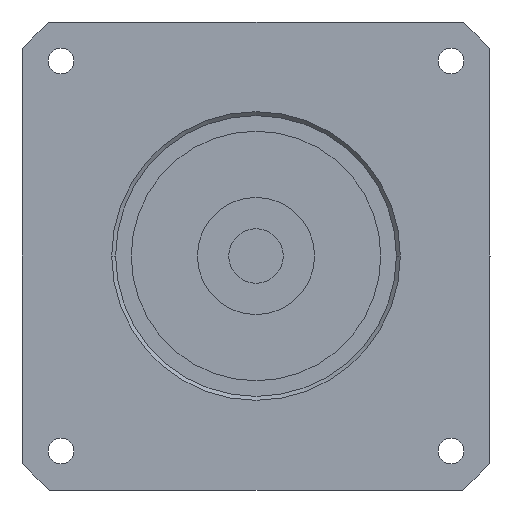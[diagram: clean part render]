
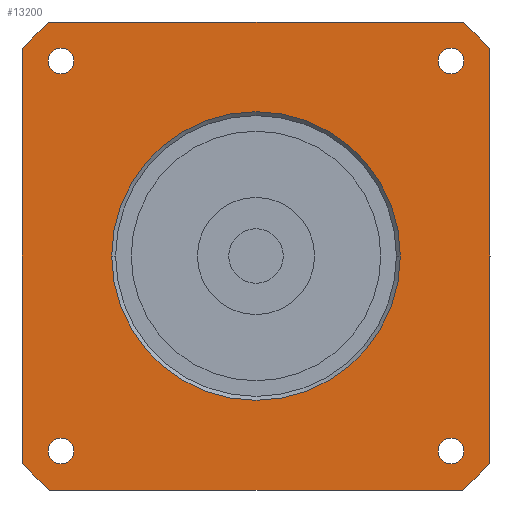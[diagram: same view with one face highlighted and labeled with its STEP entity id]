
A CAD part, left-side view. The second image highlights one B-rep face of the part: STEP entity #13200.
In plain terms, the highlighted planar face has unit normal (-1, 0, 0) as drawn and (0, 0, -1) by its records, which use the part's own axes.
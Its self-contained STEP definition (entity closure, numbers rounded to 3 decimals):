
#8680=CARTESIAN_POINT('',(25.,26.65,-39.));
#8690=VERTEX_POINT('',#8680);
#8870=CARTESIAN_POINT('',(25.,23.35,-39.));
#8880=VERTEX_POINT('',#8870);
#8910=CARTESIAN_POINT('',(25.,25.,-39.));
#8920=DIRECTION('',(0.,0.,-1.));
#8930=DIRECTION('',(0.,-1.,0.));
#8940=AXIS2_PLACEMENT_3D('',#8910,#8920,#8930);
#8950=CIRCLE('',#8940,1.65);
#8960=EDGE_CURVE('',#8690,#8880,#8950,.T.);
#9100=CARTESIAN_POINT('',(-25.,-23.35,-39.));
#9110=VERTEX_POINT('',#9100);
#9290=CARTESIAN_POINT('',(-25.,-26.65,-39.));
#9300=VERTEX_POINT('',#9290);
#9330=CARTESIAN_POINT('',(-25.,-25.,-39.));
#9340=DIRECTION('',(0.,0.,-1.));
#9350=DIRECTION('',(0.,-1.,0.));
#9360=AXIS2_PLACEMENT_3D('',#9330,#9340,#9350);
#9370=CIRCLE('',#9360,1.65);
#9380=EDGE_CURVE('',#9110,#9300,#9370,.T.);
#11720=CARTESIAN_POINT('',(-18.5,0.,-39.));
#11730=VERTEX_POINT('',#11720);
#11760=CARTESIAN_POINT('',(0.,0.,
-39.));
#11770=DIRECTION('',(0.,0.,-1.));
#11780=DIRECTION('',(0.,-1.,0.));
#11790=AXIS2_PLACEMENT_3D('',#11760,#11770,#11780);
#11800=CIRCLE('',#11790,18.5);
#11810=CARTESIAN_POINT('',(0.,-18.5,-39.));
#11820=VERTEX_POINT('',#11810);
#11830=EDGE_CURVE('',#11820,#11730,#11800,.T.);
#11850=CARTESIAN_POINT('',(18.5,0.,-39.));
#11860=VERTEX_POINT('',#11850);
#11870=EDGE_CURVE('',#11860,#11820,#11800,.T.);
#11990=CARTESIAN_POINT('',(0.,-40.,-39.));
#12000=DIRECTION('',(0.,0.,-1.));
#12010=DIRECTION('',(0.,-1.,0.));
#12020=AXIS2_PLACEMENT_3D('',#11990,#12000,#12010);
#12030=PLANE('',#12020);
#12040=CARTESIAN_POINT('',(25.,-25.,-39.));
#12050=DIRECTION('',(0.,0.,-1.));
#12060=DIRECTION('',(0.,-1.,0.));
#12070=AXIS2_PLACEMENT_3D('',#12040,#12050,#12060);
#12080=CIRCLE('',#12070,1.65);
#12090=CARTESIAN_POINT('',(25.,-26.65,-39.));
#12100=VERTEX_POINT('',#12090);
#12110=CARTESIAN_POINT('',(25.,-23.35,-39.));
#12120=VERTEX_POINT('',#12110);
#12130=EDGE_CURVE('',#12100,#12120,#12080,.T.);
#12140=ORIENTED_EDGE('',*,*,#12130,.F.);
#12150=EDGE_CURVE('',#12120,#12100,#12080,.T.);
#12160=ORIENTED_EDGE('',*,*,#12150,.F.);
#12170=EDGE_LOOP('',(#12160,#12140));
#12180=FACE_BOUND('',#12170,.T.);
#12190=EDGE_CURVE('',#8880,#8690,#8950,.T.);
#12200=ORIENTED_EDGE('',*,*,#12190,.F.);
#12210=ORIENTED_EDGE('',*,*,#8960,.F.);
#12220=EDGE_LOOP('',(#12210,#12200));
#12230=FACE_BOUND('',#12220,.T.);
#12240=CARTESIAN_POINT('',(-25.,25.,-39.));
#12250=DIRECTION('',(0.,0.,-1.));
#12260=DIRECTION('',(0.,-1.,0.));
#12270=AXIS2_PLACEMENT_3D('',#12240,#12250,#12260);
#12280=CIRCLE('',#12270,1.65);
#12290=CARTESIAN_POINT('',(-25.,23.35,-39.));
#12300=VERTEX_POINT('',#12290);
#12310=CARTESIAN_POINT('',(-25.,26.65,-39.));
#12320=VERTEX_POINT('',#12310);
#12330=EDGE_CURVE('',#12300,#12320,#12280,.T.);
#12340=ORIENTED_EDGE('',*,*,#12330,.F.);
#12350=EDGE_CURVE('',#12320,#12300,#12280,.T.);
#12360=ORIENTED_EDGE('',*,*,#12350,.F.);
#12370=EDGE_LOOP('',(#12360,#12340));
#12380=FACE_BOUND('',#12370,.T.);
#12390=EDGE_CURVE('',#9300,#9110,#9370,.T.);
#12400=ORIENTED_EDGE('',*,*,#12390,.F.);
#12410=ORIENTED_EDGE('',*,*,#9380,.F.);
#12420=EDGE_LOOP('',(#12410,#12400));
#12430=FACE_BOUND('',#12420,.T.);
#12440=ORIENTED_EDGE('',*,*,#11830,.F.);
#12450=EDGE_CURVE('',#11730,#11860,#11800,.T.);
#12460=ORIENTED_EDGE('',*,*,#12450,.F.);
#12470=ORIENTED_EDGE('',*,*,#11870,.F.);
#12480=EDGE_LOOP('',(#12470,#12460,#12440));
#12490=FACE_BOUND('',#12480,.T.);
#12500=CARTESIAN_POINT('',(-30.,-40.,-39.));
#12510=DIRECTION('',(0.,1.,0.));
#12520=VECTOR('',#12510,1000.);
#12530=LINE('',#12500,#12520);
#12540=CARTESIAN_POINT('',(-30.,-26.458,-39.));
#12550=VERTEX_POINT('',#12540);
#12560=CARTESIAN_POINT('',(-30.,26.458,-39.));
#12570=VERTEX_POINT('',#12560);
#12580=EDGE_CURVE('',#12550,#12570,#12530,.T.);
#12590=ORIENTED_EDGE('',*,*,#12580,.T.);
#12600=CARTESIAN_POINT('',(0.,0.,
-39.));
#12610=DIRECTION('',(0.,0.,1.));
#12620=DIRECTION('',(0.,1.,0.));
#12630=AXIS2_PLACEMENT_3D('',#12600,#12610,#12620);
#12640=CIRCLE('',#12630,40.);
#12650=CARTESIAN_POINT('',(-26.458,-30.,-39.));
#12660=VERTEX_POINT('',#12650);
#12670=EDGE_CURVE('',#12550,#12660,#12640,.T.);
#12680=ORIENTED_EDGE('',*,*,#12670,.F.);
#12690=CARTESIAN_POINT('',(0.,-30.,-39.));
#12700=DIRECTION('',(-1.,0.,0.));
#12710=VECTOR('',#12700,1000.);
#12720=LINE('',#12690,#12710);
#12730=CARTESIAN_POINT('',(26.458,-30.,-39.));
#12740=VERTEX_POINT('',#12730);
#12750=EDGE_CURVE('',#12740,#12660,#12720,.T.);
#12760=ORIENTED_EDGE('',*,*,#12750,.T.);
#12770=CARTESIAN_POINT('',(0.,0.,
-39.));
#12780=DIRECTION('',(0.,0.,1.));
#12790=DIRECTION('',(0.,1.,0.));
#12800=AXIS2_PLACEMENT_3D('',#12770,#12780,#12790);
#12810=CIRCLE('',#12800,40.);
#12820=CARTESIAN_POINT('',(30.,-26.458,-39.));
#12830=VERTEX_POINT('',#12820);
#12840=EDGE_CURVE('',#12740,#12830,#12810,.T.);
#12850=ORIENTED_EDGE('',*,*,#12840,.F.);
#12860=CARTESIAN_POINT('',(30.,-40.,-39.));
#12870=DIRECTION('',(0.,-1.,0.));
#12880=VECTOR('',#12870,1000.);
#12890=LINE('',#12860,#12880);
#12900=CARTESIAN_POINT('',(30.,26.458,-39.));
#12910=VERTEX_POINT('',#12900);
#12920=EDGE_CURVE('',#12910,#12830,#12890,.T.);
#12930=ORIENTED_EDGE('',*,*,#12920,.T.);
#12940=CARTESIAN_POINT('',(0.,0.,
-39.));
#12950=DIRECTION('',(0.,0.,1.));
#12960=DIRECTION('',(0.,1.,0.));
#12970=AXIS2_PLACEMENT_3D('',#12940,#12950,#12960);
#12980=CIRCLE('',#12970,40.);
#12990=CARTESIAN_POINT('',(26.458,30.,-39.));
#13000=VERTEX_POINT('',#12990);
#13010=EDGE_CURVE('',#12910,#13000,#12980,.T.);
#13020=ORIENTED_EDGE('',*,*,#13010,.F.);
#13030=CARTESIAN_POINT('',(0.,30.,-39.));
#13040=DIRECTION('',(1.,0.,0.));
#13050=VECTOR('',#13040,1000.);
#13060=LINE('',#13030,#13050);
#13070=CARTESIAN_POINT('',(-26.458,30.,-39.));
#13080=VERTEX_POINT('',#13070);
#13090=EDGE_CURVE('',#13080,#13000,#13060,.T.);
#13100=ORIENTED_EDGE('',*,*,#13090,.T.);
#13110=CARTESIAN_POINT('',(0.,0.,
-39.));
#13120=DIRECTION('',(0.,0.,1.));
#13130=DIRECTION('',(0.,1.,0.));
#13140=AXIS2_PLACEMENT_3D('',#13110,#13120,#13130);
#13150=CIRCLE('',#13140,40.);
#13160=EDGE_CURVE('',#13080,#12570,#13150,.T.);
#13170=ORIENTED_EDGE('',*,*,#13160,.F.);
#13180=EDGE_LOOP('',(#13170,#13100,#13020,#12930,#12850,#12760,#12680,
#12590));
#13190=FACE_OUTER_BOUND('',#13180,.T.);
#13200=ADVANCED_FACE('',(#12180,#12230,#12380,#12430,#12490,#13190),
#12030,.T.);
